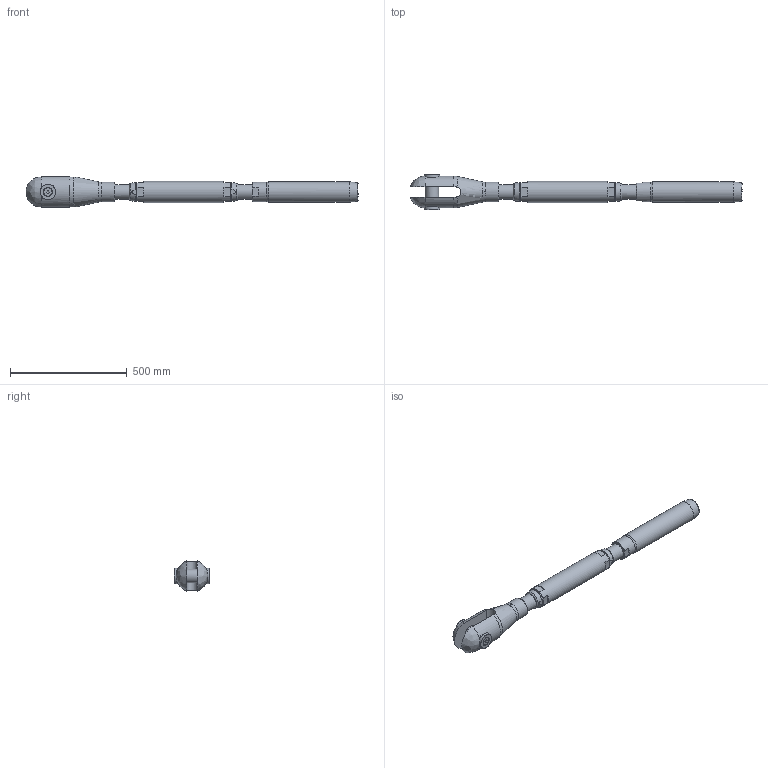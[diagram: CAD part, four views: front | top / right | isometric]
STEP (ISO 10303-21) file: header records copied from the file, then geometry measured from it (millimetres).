
FILE_DESCRIPTION(/* description */ (''),/* implementation_level */ '2;1');
FILE_NAME(/* name */ 'TBC 42_1,4462',/* time_stamp */ '2023-05-23T18:17:27+02:00',/* author */ (''),/* organization */ (''),/* preprocessor_version */ 'ST-DEVELOPER v16.5',/* originating_system */ 'Rhino 7.22',/* authorisation */ '');
FILE_SCHEMA (('CONFIG_CONTROL_DESIGN'));
Length unit declared in the file: millimetre
Products named in the file (1): Document
Bounding box: 1419.34 x 151.54 x 128.69 mm (x, y, z)
Volume: 8503054.2 mm3; surface area: 708541.6 mm2
Topology: 10 solids, 10 shells, 141 faces, 383 edges, 264 vertices
Faces by surface type: plane 65, bspline 41, cylinder 35
Full cylindrical faces by diameter (mm): 17.294 x2, 20 x2, 21 x2, 35.4 x2, 58 x1, 59 x2, 60.752 x4, 64 x2, 66 x2, 68 x1, 83 x2, 87 x1, 90 x1
Entity records: 5946 total; most frequent: CARTESIAN_POINT 3514, ORIENTED_EDGE 758, EDGE_CURVE 379, VERTEX_POINT 264, EDGE_LOOP 161, B_SPLINE_CURVE_WITH_KNOTS 158, ADVANCED_FACE 141, FACE_OUTER_BOUND 141
